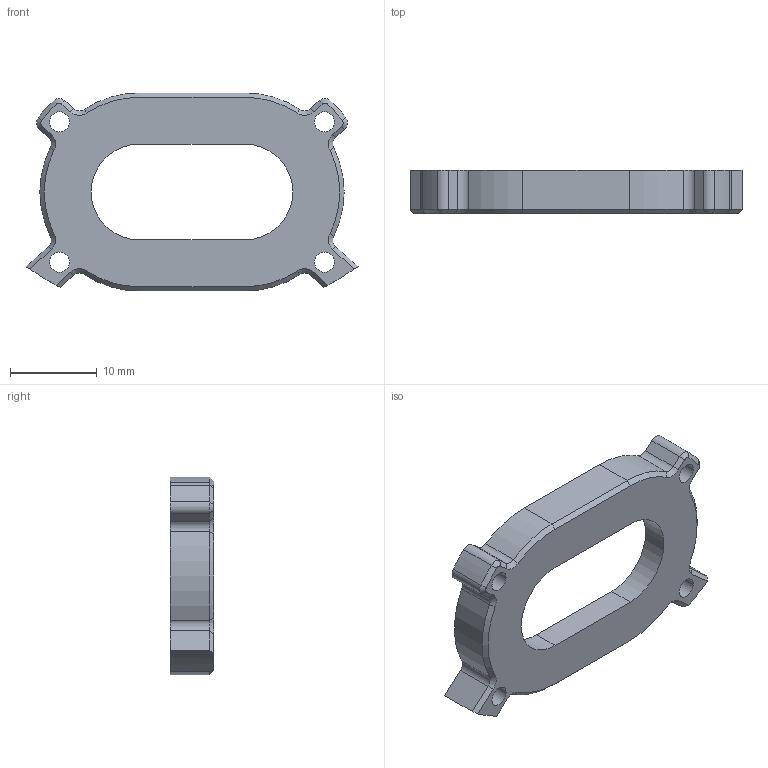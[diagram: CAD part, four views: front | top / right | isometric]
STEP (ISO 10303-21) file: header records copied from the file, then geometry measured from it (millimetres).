
FILE_DESCRIPTION(/* description */ (''),/* implementation_level */ '2;1');
FILE_NAME(/* name */ 'cast_bellow_lower_platform.stp',/* time_stamp */ '2025-08-17T17:06:47+02:00',/* author */ ('MehdiBelhadj'),/* organization */ (''),/* preprocessor_version */ 'ST-DEVELOPER v20.1',/* originating_system */ 'Autodesk Inventor 2026',/* authorisation */ '');
FILE_SCHEMA (('AUTOMOTIVE_DESIGN { 1 0 10303 214 3 1 1 }'));
Length unit declared in the file: millimetre
Products named in the file (1): balg_plattform_offen
Bounding box: 38.23 x 5 x 22.8 mm (x, y, z)
Volume: 1797.1 mm3; surface area: 2148.2 mm2
Topology: 1 solids, 1 shells, 82 faces, 206 edges, 128 vertices
Faces by surface type: cylinder 32, plane 30, cone 20
Full cylindrical faces by diameter (mm): 2.3 x4
Entity records: 2517 total; most frequent: DIRECTION 460, CARTESIAN_POINT 417, ORIENTED_EDGE 412, EDGE_CURVE 206, AXIS2_PLACEMENT_3D 171, VERTEX_POINT 128, LINE 118, VECTOR 118
